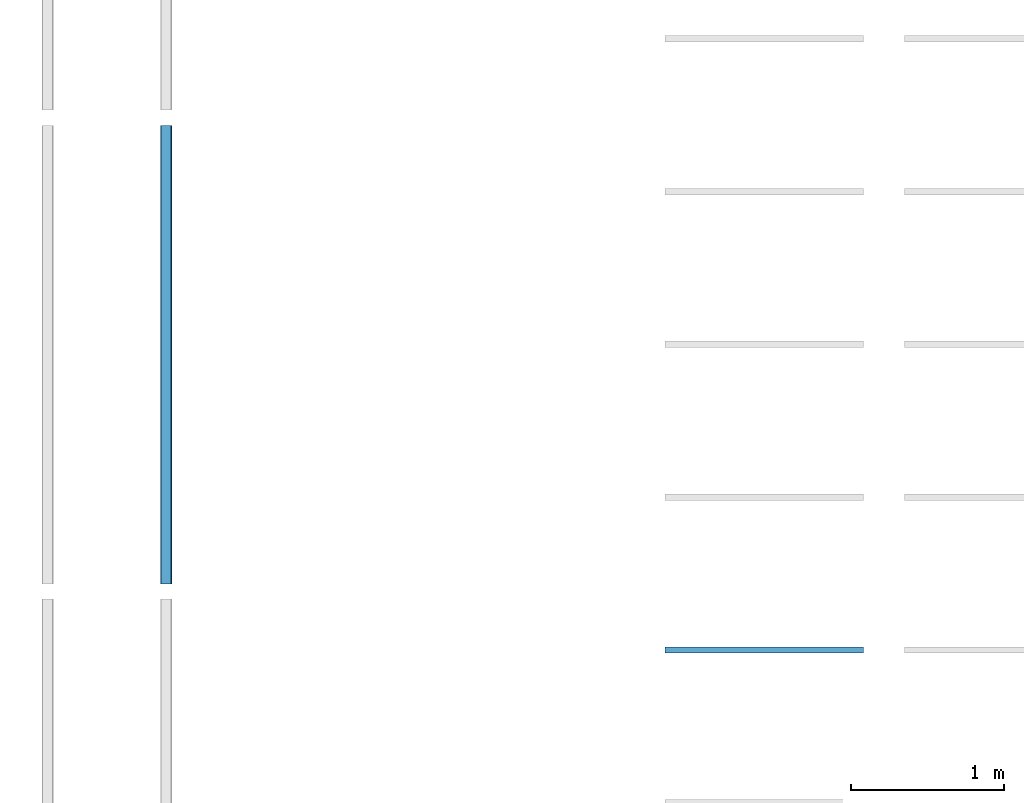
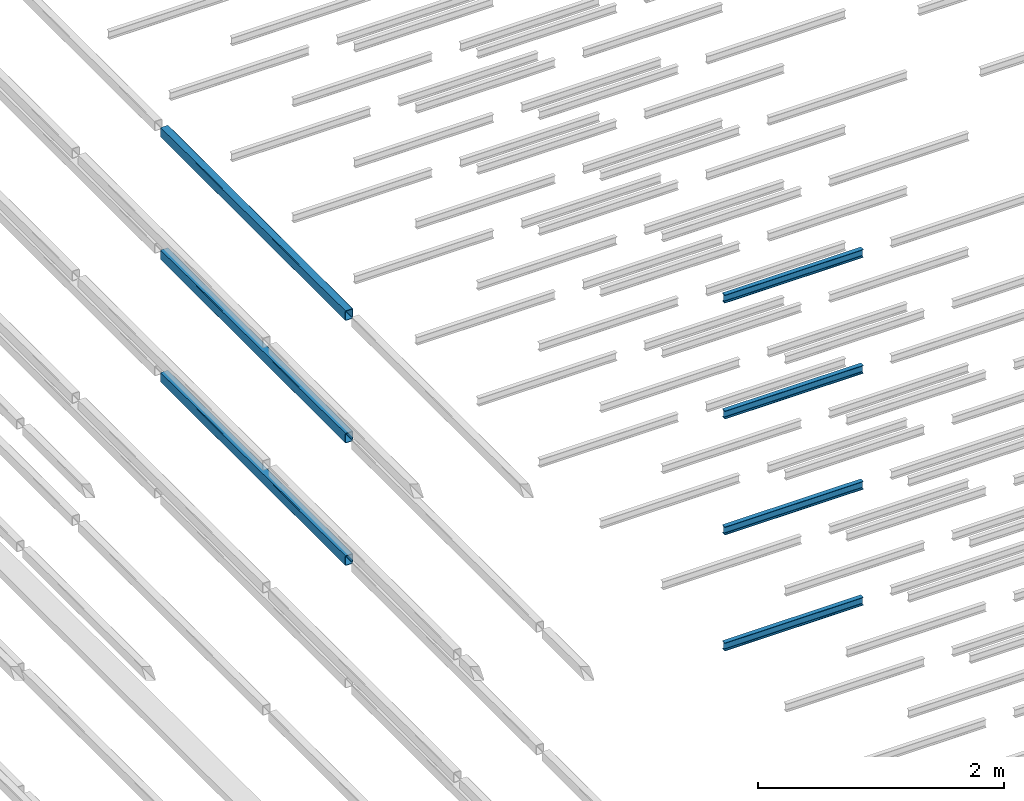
# One storey, part 81 of 290: 7 beams.
"""IFC2X3 building model written with IfcOpenShell, lengths in metres."""

import ifcopenshell
import ifcopenshell.guid

model = None  # the IFC model being written
_history = None  # IfcOwnerHistory: only IFC2X3 demands one
_inside = {}  # id of a spatial element -> (the spatial element, [elements in it])
_under = {}  # id of a project, library or spatial element -> (it, [spatial elements below it])
_declared = {}  # id of a project -> (the project, [libraries it declares])
_typed = {}  # id of a type object -> (the type object, [elements of that type])
_made_of = {}  # id of a material, layer set ... -> (it, [elements and type objects made of it])


def new_model(schema):
    """Start an empty IFC model of exactly this schema.

    Asked for "IFC4X3", IfcOpenShell would pick the latest addendum, in which some entities
    have other attributes; the version numbers below select the first issue.
    IFC2X3 requires an IfcOwnerHistory on every rooted entity: one is made here for all.
    """
    global model, _history
    if schema == "IFC4X3":
        model = ifcopenshell.file(schema_version=(4, 3, 0, 0))
    else:
        model = ifcopenshell.file(schema=schema)
    _inside.clear()
    _under.clear()
    _declared.clear()
    _typed.clear()
    _made_of.clear()
    _history = None
    if model.schema == "IFC2X3":
        org = make("IfcOrganization", Name="unknown")
        user = make(
            "IfcPersonAndOrganization",
            ThePerson=make("IfcPerson", FamilyName="unknown"),
            TheOrganization=org,
        )
        app = make(
            "IfcApplication",
            ApplicationDeveloper=org,
            Version="unknown",
            ApplicationFullName="unknown",
            ApplicationIdentifier="unknown",
        )
        _history = make(
            "IfcOwnerHistory",
            OwningUser=user,
            OwningApplication=app,
            ChangeAction="ADDED",
            CreationDate=0,
        )
    return model


def make(cls, **values):
    """One entity of the class cls with the attributes given. An attribute that is None is left unset."""
    return model.create_entity(
        cls, **{name: value for name, value in values.items() if value is not None}
    )


def entity(cls, *values):
    """Any entity or typed value of the class cls, its attributes in the order of the schema. None: left unset."""
    e = model.create_entity(cls)
    for i, value in enumerate(values):
        if value is not None:
            e[i] = value
    return e


def rooted(cls, **values):
    """An entity with a GlobalId (a new one), such as an element, a storey or a relation."""
    return make(cls, GlobalId=ifcopenshell.guid.new(), OwnerHistory=_history, **values)


def si_unit(unit_type, name, prefix=None):
    """IfcSIUnit, for example si_unit("LENGTHUNIT", "METRE", prefix="MILLI")."""
    return make("IfcSIUnit", UnitType=unit_type, Prefix=prefix, Name=name)


def converted_unit(unit_type, name, factor, base, dimensions=None, offset=None):
    """IfcConversionBasedUnit, such as the inch: factor (a typed value) times the base unit."""
    return make(
        "IfcConversionBasedUnit"
        if offset is None
        else "IfcConversionBasedUnitWithOffset",
        ConversionOffset=offset,
        Dimensions=None
        if dimensions is None
        else entity("IfcDimensionalExponents", *dimensions),
        UnitType=unit_type,
        Name=name,
        ConversionFactor=make(
            "IfcMeasureWithUnit", ValueComponent=factor, UnitComponent=base
        ),
    )


def derived_unit(unit_type, elements):
    """IfcDerivedUnit: a product of units, each with its exponent."""
    return make(
        "IfcDerivedUnit",
        Elements=[
            make("IfcDerivedUnitElement", Unit=unit, Exponent=power)
            for unit, power in elements
        ],
        UnitType=unit_type,
    )


def assignment(units):
    """IfcUnitAssignment: the units of a project."""
    return None if units is None else make("IfcUnitAssignment", Units=units)


def point(xyz):
    """IfcCartesianPoint."""
    return None if xyz is None else make("IfcCartesianPoint", Coordinates=xyz)


def direction(xyz):
    """IfcDirection."""
    return None if xyz is None else make("IfcDirection", DirectionRatios=xyz)


def frame(location, z_axis=None, x_axis=None):
    """IfcAxis2Placement3D, a coordinate frame: its origin and axes. An axis left out is left unset."""
    return make(
        "IfcAxis2Placement3D",
        Location=point(location),
        Axis=direction(z_axis),
        RefDirection=direction(x_axis),
    )


def frame_2d(location, x_axis=None):
    """IfcAxis2Placement2D, a coordinate frame in the plane: its origin and x axis."""
    return make(
        "IfcAxis2Placement2D", Location=point(location), RefDirection=direction(x_axis)
    )


def origin():
    """The frame at (0, 0, 0) with its axes left unset."""
    return frame((0.0, 0.0, 0.0))


def place(relative_to, where):
    """IfcLocalPlacement: puts the frame where relative to a parent placement (None: the world)."""
    return make(
        "IfcLocalPlacement", PlacementRelTo=relative_to, RelativePlacement=where
    )


def context(
    kind, dimensions, precision=None, world=None, true_north=None, identifier=None
):
    """IfcGeometricRepresentationContext, for example the 3D "Model" context."""
    return make(
        "IfcGeometricRepresentationContext",
        ContextIdentifier=identifier,
        ContextType=kind,
        CoordinateSpaceDimension=dimensions,
        Precision=precision,
        WorldCoordinateSystem=world,
        TrueNorth=true_north,
    )


def subcontext(parent, identifier, kind, view, scale=None):
    """IfcGeometricRepresentationSubContext, for example "Body" below "Model"."""
    return make(
        "IfcGeometricRepresentationSubContext",
        ContextIdentifier=identifier,
        ContextType=kind,
        ParentContext=parent,
        TargetScale=scale,
        TargetView=view,
    )


def project(units=None, contexts=None):
    """IfcProject with its units and contexts."""
    return rooted(
        "IfcProject",
        Name="project",
        RepresentationContexts=contexts,
        UnitsInContext=assignment(units),
    )


def spatial(cls, under=None, at=None, **own):
    """A site, building, storey or space (cls), placed at a placement, below another one or the project."""
    s = rooted(cls, ObjectPlacement=at, **own)
    if under is not None:
        _under.setdefault(under.id(), (under, []))[1].append(s)
    return s


def polyline(points):
    """IfcPolyline through the points."""
    return make("IfcPolyline", Points=[point(p) for p in points])


def circle_curve(where, radius):
    """IfcCircle in the frame where."""
    return make("IfcCircle", Position=where, Radius=radius)


def parameter(value):
    """IfcParameterValue: where a trimmed curve begins or ends, as a parameter of its basis curve."""
    return model.create_entity("IfcParameterValue", value)


def trimmed(basis, trim1, trim2, sense, master):
    """IfcTrimmedCurve: the piece of a basis curve between two trims."""
    return make(
        "IfcTrimmedCurve",
        BasisCurve=basis,
        Trim1=trim1,
        Trim2=trim2,
        SenseAgreement=sense,
        MasterRepresentation=master,
    )


def segment(curve, same_sense, transition):
    """IfcCompositeCurveSegment."""
    return make(
        "IfcCompositeCurveSegment",
        Transition=transition,
        SameSense=same_sense,
        ParentCurve=curve,
    )


def composite_curve(segments, self_intersect=None):
    """IfcCompositeCurve: segments joined end to end."""
    return make("IfcCompositeCurve", Segments=segments, SelfIntersect=self_intersect)


def outline(outer, holes=None, kind="AREA"):
    """IfcArbitraryClosedProfileDef: a profile drawn as a closed curve; with holes, ...WithVoids."""
    if holes is None:
        return make("IfcArbitraryClosedProfileDef", ProfileType=kind, OuterCurve=outer)
    return make(
        "IfcArbitraryProfileDefWithVoids",
        ProfileType=kind,
        OuterCurve=outer,
        InnerCurves=holes,
    )


def extrude(swept, where, along, depth):
    """IfcExtrudedAreaSolid: the profile swept, set in the frame where, extruded along a direction by depth."""
    return make(
        "IfcExtrudedAreaSolid",
        SweptArea=swept,
        Position=where,
        ExtrudedDirection=direction(along),
        Depth=depth,
    )


def shape(context_of_items, identifier, shape_type, items):
    """IfcShapeRepresentation: the items that make up one representation, for example the "Body"."""
    return make(
        "IfcShapeRepresentation",
        ContextOfItems=context_of_items,
        RepresentationIdentifier=identifier,
        RepresentationType=shape_type,
        Items=items,
    )


def material(Name=None, Category=None):
    """IfcMaterial."""
    return make("IfcMaterial", Name=Name, Category=Category)


def made_of(thing, what):
    """Note that an element or type object is made of a material, layer set ...; save() writes the relation."""
    if what is not None:
        _made_of.setdefault(what.id(), (what, []))[1].append(thing)
    return thing


def type_object(cls, material=None, **own):
    """A type object (cls), such as IfcWallType, which elements share."""
    return made_of(rooted(cls, **own), material)


def element(
    cls,
    number,
    at=None,
    inside=None,
    cuts=None,
    type_object=None,
    material=None,
    context=None,
    identifier="Body",
    shape_type=None,
    held_by="IfcProductDefinitionShape",
    body=None,
    shapes=None,
    **own,
):
    """One element of the class cls, such as IfcWall. Its Tag is "e" and its number.

    at: its placement. inside: the storey or other place that contains it. cuts: it is an
    opening in that element (IfcRelVoidsElement). A single representation is given by context,
    identifier, shape_type and body (its items); several are given by shapes. held_by: the class
    of the entity that holds the representations. save() writes the other relations.
    """
    e = rooted(cls, Tag="e%d" % number, ObjectPlacement=at, **own)
    if body is not None:
        shapes = [shape(context, identifier, shape_type, body)]
    if shapes is not None:
        e.Representation = make(held_by, Representations=shapes)
    if inside is not None:
        _inside.setdefault(inside.id(), (inside, []))[1].append(e)
    if cuts is not None:
        rooted(
            "IfcRelVoidsElement", RelatingBuildingElement=cuts, RelatedOpeningElement=e
        )
    if type_object is not None:
        _typed.setdefault(type_object.id(), (type_object, []))[1].append(e)
    return made_of(e, material)


def aggregate(whole, parts):
    """IfcRelAggregates: a whole, such as a stair, and the parts it consists of."""
    return rooted("IfcRelAggregates", RelatingObject=whole, RelatedObjects=parts)


def save(model, path):
    """Write the relations noted so far, then the file.

    IfcRelAggregates (storeys below a building ...), IfcRelContainedInSpatialStructure (elements
    in a storey), IfcRelDefinesByType, IfcRelAssociatesMaterial and IfcRelDeclares: one each for
    every whole, place, type object, material and project.
    """
    for whole, parts in _under.values():
        aggregate(whole, parts)
    for where, things in _inside.values():
        rooted(
            "IfcRelContainedInSpatialStructure",
            RelatedElements=things,
            RelatingStructure=where,
        )
    for kind, things in _typed.values():
        rooted("IfcRelDefinesByType", RelatedObjects=things, RelatingType=kind)
    for what, things in _made_of.values():
        rooted("IfcRelAssociatesMaterial", RelatedObjects=things, RelatingMaterial=what)
    for by, libraries in _declared.values():
        rooted("IfcRelDeclares", RelatingContext=by, RelatedDefinitions=libraries)
    model.write(path)


model = new_model("IFC2X3")

# Units and contexts
model_context = context("Model", 3, precision=1e-05, world=origin(), true_north=direction((6.12303176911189e-17, 1.0)))
body_context = subcontext(model_context, "Body", "Model", "MODEL_VIEW")
ifc_project = project(units=[si_unit("LENGTHUNIT", "METRE"), si_unit("AREAUNIT", "SQUARE_METRE"), si_unit("VOLUMEUNIT", "CUBIC_METRE"), converted_unit("PLANEANGLEUNIT", "DEGREE", entity("IfcRatioMeasure", 0.0174532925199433), si_unit("PLANEANGLEUNIT", "RADIAN"), dimensions=[0, 0, 0, 0, 0, 0, 0]), si_unit("MASSUNIT", "GRAM", prefix="KILO"), derived_unit("MASSDENSITYUNIT", [(si_unit("MASSUNIT", "GRAM", prefix="KILO"), 1), (si_unit("LENGTHUNIT", "METRE"), -3)]), derived_unit("MOMENTOFINERTIAUNIT", [(si_unit("LENGTHUNIT", "METRE"), 4)]), si_unit("TIMEUNIT", "SECOND"), si_unit("FREQUENCYUNIT", "HERTZ"), si_unit("THERMODYNAMICTEMPERATUREUNIT", "DEGREE_CELSIUS"), derived_unit("THERMALTRANSMITTANCEUNIT", [(si_unit("MASSUNIT", "GRAM", prefix="KILO"), 1), (si_unit("THERMODYNAMICTEMPERATUREUNIT", "KELVIN"), -1), (si_unit("TIMEUNIT", "SECOND"), -3)]), derived_unit("VOLUMETRICFLOWRATEUNIT", [(si_unit("LENGTHUNIT", "METRE"), 3), (si_unit("TIMEUNIT", "SECOND"), -1)]), si_unit("ELECTRICCURRENTUNIT", "AMPERE"), si_unit("ELECTRICVOLTAGEUNIT", "VOLT"), si_unit("POWERUNIT", "WATT"), si_unit("FORCEUNIT", "NEWTON", prefix="KILO"), si_unit("ILLUMINANCEUNIT", "LUX"), si_unit("LUMINOUSFLUXUNIT", "LUMEN"), si_unit("LUMINOUSINTENSITYUNIT", "CANDELA"), derived_unit("USERDEFINED", [(si_unit("MASSUNIT", "GRAM", prefix="KILO"), -1), (si_unit("LENGTHUNIT", "METRE"), -2), (si_unit("TIMEUNIT", "SECOND"), 3), (si_unit("LUMINOUSFLUXUNIT", "LUMEN"), 1)]), derived_unit("LINEARVELOCITYUNIT", [(si_unit("LENGTHUNIT", "METRE"), 1), (si_unit("TIMEUNIT", "SECOND"), -1)]), si_unit("PRESSUREUNIT", "PASCAL"), derived_unit("USERDEFINED", [(si_unit("LENGTHUNIT", "METRE"), -2), (si_unit("MASSUNIT", "GRAM", prefix="KILO"), 1), (si_unit("TIMEUNIT", "SECOND"), -2)]), derived_unit("LINEARFORCEUNIT", [(si_unit("MASSUNIT", "GRAM", prefix="KILO"), 1), (si_unit("LENGTHUNIT", "METRE"), 1), (si_unit("TIMEUNIT", "SECOND"), -2), (si_unit("LENGTHUNIT", "METRE"), -1)]), derived_unit("PLANARFORCEUNIT", [(si_unit("MASSUNIT", "GRAM", prefix="KILO"), 1), (si_unit("LENGTHUNIT", "METRE"), 1), (si_unit("TIMEUNIT", "SECOND"), -2), (si_unit("LENGTHUNIT", "METRE"), -2)])], contexts=[model_context])

# Site, building, storey
site_placement = place(None, origin())
site = spatial("IfcSite", under=ifc_project, at=site_placement, Name="Default", CompositionType="ELEMENT")
building_placement = place(site_placement, origin())
building = spatial("IfcBuilding", under=site, at=building_placement, CompositionType="ELEMENT")
storey_placement = place(building_placement, frame((0.0, 0.0, 4.0)))
storey = spatial("IfcBuildingStorey", under=building, at=storey_placement, Name="01_OG", CompositionType="ELEMENT", Elevation=4.0)

# Beams
ifc_material_1 = material(Name="Metall - Baustahl S235 blau")
beam_type_1 = type_object("IfcBeamType", Name="RHS Träger (EN 10219-2):RHS 100 x 75 x 5", PredefinedType="NOTDEFINED")
beam_1_placement = place(storey_placement, frame((-175.305111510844, 36.448088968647, 0.0150000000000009), z_axis=(0.0, 0.0, 1.0), x_axis=(0.0, 1.0, 0.0)))
element("IfcBeam", 1, at=beam_1_placement, inside=storey, type_object=beam_type_1, material=ifc_material_1, Name="RHS Träger (EN 10219-2):RHS 100 x 75 x 5", ObjectType="RHS Träger (EN 10219-2):RHS 100 x 75 x 5", context=body_context, shape_type="SweptSolid", body=[
    extrude(outline(composite_curve([segment(trimmed(circle_curve(frame_2d((-0.0274999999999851, -0.0400000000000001), x_axis=(1.0, 0.0)), 0.01), [parameter(180.0)], [parameter(270.0)], True, "PARAMETER"), True, "CONTINUOUS"), segment(polyline([(-0.0274999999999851, -0.05), (0.0274999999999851, -0.05)]), True, "CONTINUOUS"), segment(trimmed(circle_curve(frame_2d((0.0274999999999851, -0.0400000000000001), x_axis=(1.0, 0.0)), 0.01), [parameter(270.0)], [parameter(5.08888749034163e-14)], True, "PARAMETER"), True, "CONTINUOUS"), segment(polyline([(0.0375000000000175, -0.0400000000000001), (0.0375000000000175, 0.0400000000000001)]), True, "CONTINUOUS"), segment(trimmed(circle_curve(frame_2d((0.0274999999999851, 0.0400000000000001), x_axis=(1.0, 0.0)), 0.01), [parameter(360.0)], [parameter(89.9999999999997)], True, "PARAMETER"), True, "CONTINUOUS"), segment(polyline([(0.0274999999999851, 0.05), (-0.0274999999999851, 0.05)]), True, "CONTINUOUS"), segment(trimmed(circle_curve(frame_2d((-0.0274999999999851, 0.0400000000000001), x_axis=(1.0, 0.0)), 0.01), [parameter(90.0000000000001)], [parameter(180.0)], True, "PARAMETER"), True, "CONTINUOUS"), segment(polyline([(-0.0374999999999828, 0.0400000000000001), (-0.0374999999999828, -0.0400000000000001)]), True, "CONTINUOUS")], self_intersect=False), holes=[composite_curve([segment(polyline([(0.0274999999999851, -0.0450000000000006), (-0.0274999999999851, -0.0450000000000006)]), True, "CONTINUOUS"), segment(trimmed(circle_curve(frame_2d((-0.0274999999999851, -0.0400000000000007), x_axis=(1.0, 0.0)), 0.005), [parameter(180.0)], [parameter(270.0)], True, "PARAMETER"), False, "CONTINUOUS"), segment(polyline([(-0.0325000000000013, -0.0400000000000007), (-0.0325000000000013, 0.039999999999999)]), True, "CONTINUOUS"), segment(trimmed(circle_curve(frame_2d((-0.0274999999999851, 0.039999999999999), x_axis=(1.0, 0.0)), 0.005), [parameter(90.0000000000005)], [parameter(180.0)], True, "PARAMETER"), False, "CONTINUOUS"), segment(polyline([(-0.0274999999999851, 0.044999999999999), (0.0274999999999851, 0.044999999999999)]), True, "CONTINUOUS"), segment(trimmed(circle_curve(frame_2d((0.0274999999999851, 0.039999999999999), x_axis=(1.0, 0.0)), 0.005), [parameter(0.0)], [parameter(90.0000000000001)], True, "PARAMETER"), False, "CONTINUOUS"), segment(polyline([(0.0325000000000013, 0.039999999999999), (0.0325000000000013, -0.0400000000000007)]), True, "CONTINUOUS"), segment(trimmed(circle_curve(frame_2d((0.0274999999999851, -0.0400000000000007), x_axis=(1.0, 0.0)), 0.005), [parameter(270.0)], [parameter(4.07110999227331e-13)], True, "PARAMETER"), False, "CONTINUOUS")], self_intersect=False)]), frame((9.9999999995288e-05, 0.0375000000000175, -0.0500000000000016), z_axis=(1.0, 0.0, 0.0), x_axis=(0.0, -1.0, 0.0)), (0.0, 0.0, 1.0), 2.9998),
])
beam_2_placement = place(storey_placement, frame((-175.305111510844, 36.448088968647, 1.23), z_axis=(0.0, 0.0, 1.0), x_axis=(0.0, 1.0, 0.0)))
element("IfcBeam", 2, at=beam_2_placement, inside=storey, type_object=beam_type_1, material=ifc_material_1, Name="RHS Träger (EN 10219-2):RHS 100 x 75 x 5", ObjectType="RHS Träger (EN 10219-2):RHS 100 x 75 x 5", context=body_context, shape_type="SweptSolid", body=[
    extrude(outline(composite_curve([segment(trimmed(circle_curve(frame_2d((-0.0274999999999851, -0.0399999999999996), x_axis=(1.0, 0.0)), 0.01), [parameter(180.0)], [parameter(270.0)], True, "PARAMETER"), True, "CONTINUOUS"), segment(polyline([(-0.0274999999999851, -0.0499999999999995), (0.0274999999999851, -0.0499999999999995)]), True, "CONTINUOUS"), segment(trimmed(circle_curve(frame_2d((0.0274999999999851, -0.0399999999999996), x_axis=(1.0, 0.0)), 0.01), [parameter(270.0)], [parameter(5.08888749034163e-14)], True, "PARAMETER"), True, "CONTINUOUS"), segment(polyline([(0.0375000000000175, -0.0399999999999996), (0.0375000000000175, 0.0399999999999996)]), True, "CONTINUOUS"), segment(trimmed(circle_curve(frame_2d((0.0274999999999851, 0.0399999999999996), x_axis=(1.0, 0.0)), 0.01), [parameter(360.0)], [parameter(89.9999999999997)], True, "PARAMETER"), True, "CONTINUOUS"), segment(polyline([(0.0274999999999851, 0.0500000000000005), (-0.0274999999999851, 0.0500000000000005)]), True, "CONTINUOUS"), segment(trimmed(circle_curve(frame_2d((-0.0274999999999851, 0.0399999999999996), x_axis=(1.0, 0.0)), 0.01), [parameter(90.0000000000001)], [parameter(180.0)], True, "PARAMETER"), True, "CONTINUOUS"), segment(polyline([(-0.0374999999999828, 0.0399999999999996), (-0.0374999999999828, -0.0399999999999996)]), True, "CONTINUOUS")], self_intersect=False), holes=[composite_curve([segment(polyline([(0.0274999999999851, -0.0450000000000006), (-0.0274999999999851, -0.0450000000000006)]), True, "CONTINUOUS"), segment(trimmed(circle_curve(frame_2d((-0.0274999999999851, -0.0400000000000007), x_axis=(1.0, 0.0)), 0.005), [parameter(180.0)], [parameter(270.0)], True, "PARAMETER"), False, "CONTINUOUS"), segment(polyline([(-0.0325000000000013, -0.0400000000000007), (-0.0325000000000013, 0.0399999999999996)]), True, "CONTINUOUS"), segment(trimmed(circle_curve(frame_2d((-0.0274999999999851, 0.0399999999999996), x_axis=(1.0, 0.0)), 0.005), [parameter(90.0000000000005)], [parameter(180.0)], True, "PARAMETER"), False, "CONTINUOUS"), segment(polyline([(-0.0274999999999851, 0.0449999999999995), (0.0274999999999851, 0.0449999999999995)]), True, "CONTINUOUS"), segment(trimmed(circle_curve(frame_2d((0.0274999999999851, 0.0399999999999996), x_axis=(1.0, 0.0)), 0.005), [parameter(0.0)], [parameter(90.0000000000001)], True, "PARAMETER"), False, "CONTINUOUS"), segment(polyline([(0.0325000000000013, 0.0399999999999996), (0.0325000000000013, -0.0400000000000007)]), True, "CONTINUOUS"), segment(trimmed(circle_curve(frame_2d((0.0274999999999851, -0.0400000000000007), x_axis=(1.0, 0.0)), 0.005), [parameter(270.0)], [parameter(4.07110999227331e-13)], True, "PARAMETER"), False, "CONTINUOUS")], self_intersect=False)]), frame((9.99999999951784e-05, 0.0375000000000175, -0.0500000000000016), z_axis=(1.0, 0.0, 0.0), x_axis=(0.0, -1.0, 0.0)), (0.0, 0.0, 1.0), 2.9998),
])
beam_3_placement = place(storey_placement, frame((-175.305111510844, 36.448088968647, 2.445), z_axis=(0.0, 0.0, 1.0), x_axis=(0.0, 1.0, 0.0)))
element("IfcBeam", 3, at=beam_3_placement, inside=storey, type_object=beam_type_1, material=ifc_material_1, Name="RHS Träger (EN 10219-2):RHS 100 x 75 x 5", ObjectType="RHS Träger (EN 10219-2):RHS 100 x 75 x 5", context=body_context, shape_type="SweptSolid", body=[
    extrude(outline(composite_curve([segment(trimmed(circle_curve(frame_2d((-0.0274999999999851, -0.0399999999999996), x_axis=(1.0, 0.0)), 0.01), [parameter(180.0)], [parameter(270.0)], True, "PARAMETER"), True, "CONTINUOUS"), segment(polyline([(-0.0274999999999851, -0.0499999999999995), (0.0274999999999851, -0.0499999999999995)]), True, "CONTINUOUS"), segment(trimmed(circle_curve(frame_2d((0.0274999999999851, -0.0399999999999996), x_axis=(1.0, 0.0)), 0.01), [parameter(270.0)], [parameter(5.08888749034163e-14)], True, "PARAMETER"), True, "CONTINUOUS"), segment(polyline([(0.0375000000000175, -0.0399999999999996), (0.0375000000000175, 0.0399999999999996)]), True, "CONTINUOUS"), segment(trimmed(circle_curve(frame_2d((0.0274999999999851, 0.0399999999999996), x_axis=(1.0, 0.0)), 0.01), [parameter(360.0)], [parameter(89.9999999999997)], True, "PARAMETER"), True, "CONTINUOUS"), segment(polyline([(0.0274999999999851, 0.0500000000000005), (-0.0274999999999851, 0.0500000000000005)]), True, "CONTINUOUS"), segment(trimmed(circle_curve(frame_2d((-0.0274999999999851, 0.0399999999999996), x_axis=(1.0, 0.0)), 0.01), [parameter(90.0000000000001)], [parameter(180.0)], True, "PARAMETER"), True, "CONTINUOUS"), segment(polyline([(-0.0374999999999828, 0.0399999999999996), (-0.0374999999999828, -0.0399999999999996)]), True, "CONTINUOUS")], self_intersect=False), holes=[composite_curve([segment(polyline([(0.0274999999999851, -0.0450000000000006), (-0.0274999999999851, -0.0450000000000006)]), True, "CONTINUOUS"), segment(trimmed(circle_curve(frame_2d((-0.0274999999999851, -0.0400000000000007), x_axis=(1.0, 0.0)), 0.005), [parameter(180.0)], [parameter(270.0)], True, "PARAMETER"), False, "CONTINUOUS"), segment(polyline([(-0.0325000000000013, -0.0400000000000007), (-0.0325000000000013, 0.0399999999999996)]), True, "CONTINUOUS"), segment(trimmed(circle_curve(frame_2d((-0.0274999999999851, 0.0399999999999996), x_axis=(1.0, 0.0)), 0.005), [parameter(90.0000000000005)], [parameter(180.0)], True, "PARAMETER"), False, "CONTINUOUS"), segment(polyline([(-0.0274999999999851, 0.0449999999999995), (0.0274999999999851, 0.0449999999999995)]), True, "CONTINUOUS"), segment(trimmed(circle_curve(frame_2d((0.0274999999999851, 0.0399999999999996), x_axis=(1.0, 0.0)), 0.005), [parameter(0.0)], [parameter(90.0000000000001)], True, "PARAMETER"), False, "CONTINUOUS"), segment(polyline([(0.0325000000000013, 0.0399999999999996), (0.0325000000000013, -0.0400000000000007)]), True, "CONTINUOUS"), segment(trimmed(circle_curve(frame_2d((0.0274999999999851, -0.0400000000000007), x_axis=(1.0, 0.0)), 0.005), [parameter(270.0)], [parameter(4.07110999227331e-13)], True, "PARAMETER"), False, "CONTINUOUS")], self_intersect=False)]), frame((9.99999999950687e-05, 0.0375000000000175, -0.0500000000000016), z_axis=(1.0, 0.0, 0.0), x_axis=(0.0, -1.0, 0.0)), (0.0, 0.0, 1.0), 2.9998),
])
ifc_material_2 = material(Name="Metall - Baustahl S235")
beam_type_2 = type_object("IfcBeamType", Name="IPN Träger:IPN 80", PredefinedType="NOTDEFINED")
beam_4_placement = place(storey_placement, frame((-170.780111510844, 36.036588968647, -1.73), z_axis=(0.0, 0.0, 1.0), x_axis=(-1.0, 0.0, 0.0)))
element("IfcBeam", 4, at=beam_4_placement, inside=storey, type_object=beam_type_2, material=ifc_material_2, Name="IPN Träger:IPN 80", ObjectType="IPN Träger:IPN 80", context=body_context, shape_type="SweptSolid", body=[
    extrude(outline(composite_curve([segment(polyline([(0.0375704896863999, -0.0209999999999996), (0.0399999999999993, -0.0209999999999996)]), True, "CONTINUOUS"), segment(polyline([(0.0399999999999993, -0.0209999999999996), (0.0399999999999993, 0.0209999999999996)]), True, "CONTINUOUS"), segment(polyline([(0.0399999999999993, 0.0209999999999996), (0.0375704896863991, 0.0209999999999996)]), True, "CONTINUOUS"), segment(trimmed(circle_curve(frame_2d((0.0375704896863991, 0.0187000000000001), x_axis=(0.0, 1.0)), 0.00230000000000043), [parameter(0.0)], [parameter(82.0299999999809)], True, "PARAMETER"), True, "CONTINUOUS"), segment(polyline([(0.0352927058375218, 0.0190189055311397), (0.0333732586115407, 0.00530924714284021)]), True, "CONTINUOUS"), segment(trimmed(circle_curve(frame_2d((0.0295109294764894, 0.00584999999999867), x_axis=(0.990340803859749, -0.138654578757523)), 0.00389999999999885), [parameter(277.969999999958)], [parameter(0.0)], True, "PARAMETER"), False, "CONTINUOUS"), segment(polyline([(0.0295109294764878, 0.00194999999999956), (-0.0295109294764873, 0.00194999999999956)]), True, "CONTINUOUS"), segment(trimmed(circle_curve(frame_2d((-0.0295109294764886, 0.00584999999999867), x_axis=(0.0, -1.0)), 0.00389999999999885), [parameter(277.969999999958)], [parameter(0.0)], True, "PARAMETER"), False, "CONTINUOUS"), segment(polyline([(-0.0333732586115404, 0.00530924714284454), (-0.0352927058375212, 0.019018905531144)]), True, "CONTINUOUS"), segment(trimmed(circle_curve(frame_2d((-0.0375704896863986, 0.0187000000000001), x_axis=(0.990340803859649, 0.138654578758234)), 0.00230000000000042), [parameter(0.0)], [parameter(82.0299999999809)], True, "PARAMETER"), True, "CONTINUOUS"), segment(polyline([(-0.0375704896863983, 0.0209999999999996), (-0.0400000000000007, 0.0209999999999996)]), True, "CONTINUOUS"), segment(polyline([(-0.0400000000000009, 0.0209999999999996), (-0.0400000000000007, -0.0209999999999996)]), True, "CONTINUOUS"), segment(polyline([(-0.0400000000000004, -0.0209999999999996), (-0.0375704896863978, -0.0209999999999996)]), True, "CONTINUOUS"), segment(trimmed(circle_curve(frame_2d((-0.0375704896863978, -0.0187000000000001), x_axis=(0.0, -1.0)), 0.00230000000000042), [parameter(0.0)], [parameter(82.0299999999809)], True, "PARAMETER"), True, "CONTINUOUS"), segment(polyline([(-0.0352927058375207, -0.0190189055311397), (-0.0333732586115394, -0.00530924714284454)]), True, "CONTINUOUS"), segment(trimmed(circle_curve(frame_2d((-0.0295109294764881, -0.00584999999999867), x_axis=(-0.990340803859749, 0.138654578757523)), 0.00389999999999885), [parameter(277.969999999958)], [parameter(0.0)], True, "PARAMETER"), False, "CONTINUOUS"), segment(polyline([(-0.0295109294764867, -0.00194999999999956), (0.0295109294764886, -0.00194999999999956)]), True, "CONTINUOUS"), segment(trimmed(circle_curve(frame_2d((0.0295109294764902, -0.00584999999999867), x_axis=(0.0, 1.0)), 0.0038999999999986), [parameter(277.969999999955)], [parameter(0.0)], True, "PARAMETER"), False, "CONTINUOUS"), segment(polyline([(0.0333732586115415, -0.00530924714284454), (0.0352927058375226, -0.019018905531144)]), True, "CONTINUOUS"), segment(trimmed(circle_curve(frame_2d((0.0375704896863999, -0.0187000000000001), x_axis=(-0.990340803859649, -0.138654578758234)), 0.00230000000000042), [parameter(0.0)], [parameter(82.0299999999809)], True, "PARAMETER"), True, "CONTINUOUS")], self_intersect=False)), frame((0.00010000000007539, 0.0209999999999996, -0.0400000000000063), z_axis=(1.0, 0.0, 0.0), x_axis=(0.0, 0.0, -1.0)), (0.0, 0.0, 1.0), 1.29990000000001),
])
beam_5_placement = place(storey_placement, frame((-170.780111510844, 36.036588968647, -0.579999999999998), z_axis=(0.0, 0.0, 1.0), x_axis=(-1.0, 0.0, 0.0)))
element("IfcBeam", 5, at=beam_5_placement, inside=storey, type_object=beam_type_2, material=ifc_material_2, Name="IPN Träger:IPN 80", ObjectType="IPN Träger:IPN 80", context=body_context, shape_type="SweptSolid", body=[
    extrude(outline(composite_curve([segment(polyline([(0.0375704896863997, -0.0209999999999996), (0.039999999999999, -0.0209999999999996)]), True, "CONTINUOUS"), segment(polyline([(0.039999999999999, -0.0209999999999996), (0.039999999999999, 0.0209999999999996)]), True, "CONTINUOUS"), segment(polyline([(0.039999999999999, 0.0209999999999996), (0.0375704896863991, 0.0209999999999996)]), True, "CONTINUOUS"), segment(trimmed(circle_curve(frame_2d((0.0375704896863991, 0.0187000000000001), x_axis=(0.0, 1.0)), 0.00230000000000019), [parameter(0.0)], [parameter(82.02999999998)], True, "PARAMETER"), True, "CONTINUOUS"), segment(polyline([(0.0352927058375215, 0.0190189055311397), (0.0333732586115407, 0.00530924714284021)]), True, "CONTINUOUS"), segment(trimmed(circle_curve(frame_2d((0.0295109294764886, 0.00584999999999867), x_axis=(0.990340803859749, -0.138654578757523)), 0.00389999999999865), [parameter(277.969999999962)], [parameter(0.0)], True, "PARAMETER"), False, "CONTINUOUS"), segment(polyline([(0.0295109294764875, 0.00194999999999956), (-0.0295109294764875, 0.00194999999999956)]), True, "CONTINUOUS"), segment(trimmed(circle_curve(frame_2d((-0.0295109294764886, 0.00584999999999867), x_axis=(0.0, -1.0)), 0.00389999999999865), [parameter(277.969999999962)], [parameter(0.0)], True, "PARAMETER"), False, "CONTINUOUS"), segment(polyline([(-0.0333732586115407, 0.00530924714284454), (-0.0352927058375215, 0.019018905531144)]), True, "CONTINUOUS"), segment(trimmed(circle_curve(frame_2d((-0.0375704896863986, 0.0187000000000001), x_axis=(0.990340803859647, 0.138654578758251)), 0.00230000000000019), [parameter(0.0)], [parameter(82.02999999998)], True, "PARAMETER"), True, "CONTINUOUS"), segment(polyline([(-0.0375704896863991, 0.0209999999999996), (-0.0400000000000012, 0.0209999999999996)]), True, "CONTINUOUS"), segment(polyline([(-0.0400000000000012, 0.0209999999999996), (-0.0400000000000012, -0.0209999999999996)]), True, "CONTINUOUS"), segment(polyline([(-0.0400000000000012, -0.0209999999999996), (-0.037570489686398, -0.0209999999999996)]), True, "CONTINUOUS"), segment(trimmed(circle_curve(frame_2d((-0.037570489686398, -0.0187000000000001), x_axis=(0.0, -1.0)), 0.00230000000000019), [parameter(0.0)], [parameter(82.02999999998)], True, "PARAMETER"), True, "CONTINUOUS"), segment(polyline([(-0.035292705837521, -0.0190189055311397), (-0.0333732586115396, -0.00530924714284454)]), True, "CONTINUOUS"), segment(trimmed(circle_curve(frame_2d((-0.0295109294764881, -0.00584999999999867), x_axis=(-0.990340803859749, 0.138654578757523)), 0.00389999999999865), [parameter(277.969999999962)], [parameter(0.0)], True, "PARAMETER"), False, "CONTINUOUS"), segment(polyline([(-0.029510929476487, -0.00194999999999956), (0.0295109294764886, -0.00194999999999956)]), True, "CONTINUOUS"), segment(trimmed(circle_curve(frame_2d((0.0295109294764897, -0.00584999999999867), x_axis=(0.0, 1.0)), 0.00389999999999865), [parameter(277.969999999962)], [parameter(0.0)], True, "PARAMETER"), False, "CONTINUOUS"), segment(polyline([(0.0333732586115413, -0.00530924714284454), (0.0352927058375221, -0.019018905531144)]), True, "CONTINUOUS"), segment(trimmed(circle_curve(frame_2d((0.0375704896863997, -0.0187000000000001), x_axis=(-0.990340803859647, -0.138654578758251)), 0.00230000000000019), [parameter(0.0)], [parameter(82.02999999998)], True, "PARAMETER"), True, "CONTINUOUS")], self_intersect=False)), frame((0.000100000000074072, 0.0209999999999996, -0.0400000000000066), z_axis=(1.0, 0.0, 0.0), x_axis=(0.0, 0.0, -1.0)), (0.0, 0.0, 1.0), 1.29990000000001),
])
beam_6_placement = place(storey_placement, frame((-170.780111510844, 36.036588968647, 0.570000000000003), z_axis=(0.0, 0.0, 1.0), x_axis=(-1.0, 0.0, 0.0)))
element("IfcBeam", 6, at=beam_6_placement, inside=storey, type_object=beam_type_2, material=ifc_material_2, Name="IPN Träger:IPN 80", ObjectType="IPN Träger:IPN 80", context=body_context, shape_type="SweptSolid", body=[
    extrude(outline(composite_curve([segment(polyline([(0.0375704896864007, -0.0209999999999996), (0.0400000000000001, -0.0209999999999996)]), True, "CONTINUOUS"), segment(polyline([(0.0400000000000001, -0.0209999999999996), (0.0400000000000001, 0.0209999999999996)]), True, "CONTINUOUS"), segment(polyline([(0.0400000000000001, 0.0209999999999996), (0.0375704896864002, 0.0209999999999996)]), True, "CONTINUOUS"), segment(trimmed(circle_curve(frame_2d((0.0375704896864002, 0.0187000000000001), x_axis=(0.0, 1.0)), 0.00230000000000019), [parameter(0.0)], [parameter(82.02999999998)], True, "PARAMETER"), True, "CONTINUOUS"), segment(polyline([(0.0352927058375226, 0.0190189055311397), (0.0333732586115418, 0.00530924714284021)]), True, "CONTINUOUS"), segment(trimmed(circle_curve(frame_2d((0.0295109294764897, 0.00584999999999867), x_axis=(0.990340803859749, -0.138654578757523)), 0.00389999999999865), [parameter(277.969999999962)], [parameter(0.0)], True, "PARAMETER"), False, "CONTINUOUS"), segment(polyline([(0.0295109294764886, 0.00194999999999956), (-0.0295109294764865, 0.00194999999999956)]), True, "CONTINUOUS"), segment(trimmed(circle_curve(frame_2d((-0.0295109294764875, 0.00584999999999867), x_axis=(0.0, -1.0)), 0.00389999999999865), [parameter(277.969999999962)], [parameter(0.0)], True, "PARAMETER"), False, "CONTINUOUS"), segment(polyline([(-0.0333732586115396, 0.00530924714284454), (-0.0352927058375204, 0.019018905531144)]), True, "CONTINUOUS"), segment(trimmed(circle_curve(frame_2d((-0.0375704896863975, 0.0187000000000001), x_axis=(0.990340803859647, 0.138654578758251)), 0.00230000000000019), [parameter(0.0)], [parameter(82.02999999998)], True, "PARAMETER"), True, "CONTINUOUS"), segment(polyline([(-0.037570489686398, 0.0209999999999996), (-0.0400000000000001, 0.0209999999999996)]), True, "CONTINUOUS"), segment(polyline([(-0.0400000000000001, 0.0209999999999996), (-0.0400000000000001, -0.0209999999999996)]), True, "CONTINUOUS"), segment(polyline([(-0.0400000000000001, -0.0209999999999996), (-0.0375704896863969, -0.0209999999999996)]), True, "CONTINUOUS"), segment(trimmed(circle_curve(frame_2d((-0.0375704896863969, -0.0187000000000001), x_axis=(0.0, -1.0)), 0.00230000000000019), [parameter(0.0)], [parameter(82.02999999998)], True, "PARAMETER"), True, "CONTINUOUS"), segment(polyline([(-0.0352927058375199, -0.0190189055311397), (-0.0333732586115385, -0.00530924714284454)]), True, "CONTINUOUS"), segment(trimmed(circle_curve(frame_2d((-0.029510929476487, -0.00584999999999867), x_axis=(-0.990340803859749, 0.138654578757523)), 0.00389999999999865), [parameter(277.969999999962)], [parameter(0.0)], True, "PARAMETER"), False, "CONTINUOUS"), segment(polyline([(-0.0295109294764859, -0.00194999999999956), (0.0295109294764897, -0.00194999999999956)]), True, "CONTINUOUS"), segment(trimmed(circle_curve(frame_2d((0.0295109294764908, -0.00584999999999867), x_axis=(0.0, 1.0)), 0.00389999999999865), [parameter(277.969999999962)], [parameter(0.0)], True, "PARAMETER"), False, "CONTINUOUS"), segment(polyline([(0.0333732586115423, -0.00530924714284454), (0.0352927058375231, -0.019018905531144)]), True, "CONTINUOUS"), segment(trimmed(circle_curve(frame_2d((0.0375704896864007, -0.0187000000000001), x_axis=(-0.990340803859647, -0.138654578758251)), 0.00230000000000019), [parameter(0.0)], [parameter(82.02999999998)], True, "PARAMETER"), True, "CONTINUOUS")], self_intersect=False)), frame((0.000100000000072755, 0.0209999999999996, -0.0400000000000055), z_axis=(1.0, 0.0, 0.0), x_axis=(0.0, 0.0, -1.0)), (0.0, 0.0, 1.0), 1.29990000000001),
])
beam_7_placement = place(storey_placement, frame((-170.780111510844, 36.036588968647, 1.72), z_axis=(0.0, 0.0, 1.0), x_axis=(-1.0, 0.0, 0.0)))
element("IfcBeam", 7, at=beam_7_placement, inside=storey, type_object=beam_type_2, material=ifc_material_2, Name="IPN Träger:IPN 80", ObjectType="IPN Träger:IPN 80", context=body_context, shape_type="SweptSolid", body=[
    extrude(outline(composite_curve([segment(polyline([(0.0375704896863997, -0.0209999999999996), (0.0399999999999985, -0.0209999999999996)]), True, "CONTINUOUS"), segment(polyline([(0.0399999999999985, -0.0209999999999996), (0.0399999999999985, 0.0209999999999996)]), True, "CONTINUOUS"), segment(polyline([(0.0399999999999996, 0.0209999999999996), (0.0375704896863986, 0.0209999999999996)]), True, "CONTINUOUS"), segment(trimmed(circle_curve(frame_2d((0.0375704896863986, 0.0187000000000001), x_axis=(0.0, 1.0)), 0.00230000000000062), [parameter(0.0)], [parameter(82.0299999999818)], True, "PARAMETER"), True, "CONTINUOUS"), segment(polyline([(0.0352927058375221, 0.0190189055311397), (0.0333732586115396, 0.00530924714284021)]), True, "CONTINUOUS"), segment(trimmed(circle_curve(frame_2d((0.0295109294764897, 0.00584999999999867), x_axis=(0.990340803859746, -0.138654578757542)), 0.00389999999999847), [parameter(277.969999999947)], [parameter(0.0)], True, "PARAMETER"), False, "CONTINUOUS"), segment(polyline([(0.0295109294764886, 0.00194999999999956), (-0.0295109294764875, 0.00194999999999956)]), True, "CONTINUOUS"), segment(trimmed(circle_curve(frame_2d((-0.0295109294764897, 0.00584999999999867), x_axis=(0.0, -1.0)), 0.00389999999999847), [parameter(277.969999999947)], [parameter(0.0)], True, "PARAMETER"), False, "CONTINUOUS"), segment(polyline([(-0.0333732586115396, 0.00530924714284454), (-0.0352927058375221, 0.019018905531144)]), True, "CONTINUOUS"), segment(trimmed(circle_curve(frame_2d((-0.0375704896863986, 0.0187000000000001), x_axis=(0.990340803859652, 0.138654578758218)), 0.00230000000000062), [parameter(0.0)], [parameter(82.0299999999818)], True, "PARAMETER"), True, "CONTINUOUS"), segment(polyline([(-0.0375704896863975, 0.0209999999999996), (-0.0400000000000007, 0.0209999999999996)]), True, "CONTINUOUS"), segment(polyline([(-0.0400000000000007, 0.0209999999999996), (-0.0400000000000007, -0.0209999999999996)]), True, "CONTINUOUS"), segment(polyline([(-0.0400000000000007, -0.0209999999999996), (-0.0375704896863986, -0.0209999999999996)]), True, "CONTINUOUS"), segment(trimmed(circle_curve(frame_2d((-0.0375704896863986, -0.0187000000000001), x_axis=(0.0, -1.0)), 0.00230000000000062), [parameter(0.0)], [parameter(82.0299999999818)], True, "PARAMETER"), True, "CONTINUOUS"), segment(polyline([(-0.035292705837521, -0.0190189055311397), (-0.0333732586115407, -0.00530924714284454)]), True, "CONTINUOUS"), segment(trimmed(circle_curve(frame_2d((-0.0295109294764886, -0.00584999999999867), x_axis=(-0.990340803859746, 0.138654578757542)), 0.00389999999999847), [parameter(277.969999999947)], [parameter(0.0)], True, "PARAMETER"), False, "CONTINUOUS"), segment(polyline([(-0.0295109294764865, -0.00194999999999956), (0.0295109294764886, -0.00194999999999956)]), True, "CONTINUOUS"), segment(trimmed(circle_curve(frame_2d((0.0295109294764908, -0.00584999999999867), x_axis=(0.0, 1.0)), 0.00389999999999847), [parameter(277.969999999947)], [parameter(0.0)], True, "PARAMETER"), False, "CONTINUOUS"), segment(polyline([(0.0333732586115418, -0.00530924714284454), (0.0352927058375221, -0.019018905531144)]), True, "CONTINUOUS"), segment(trimmed(circle_curve(frame_2d((0.0375704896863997, -0.0187000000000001), x_axis=(-0.990340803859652, -0.138654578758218)), 0.00230000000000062), [parameter(0.0)], [parameter(82.0299999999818)], True, "PARAMETER"), True, "CONTINUOUS")], self_intersect=False)), frame((0.000100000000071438, 0.0209999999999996, -0.040000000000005), z_axis=(1.0, 0.0, 0.0), x_axis=(0.0, 0.0, -1.0)), (0.0, 0.0, 1.0), 1.29990000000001),
])

save(model, "model.ifc")
